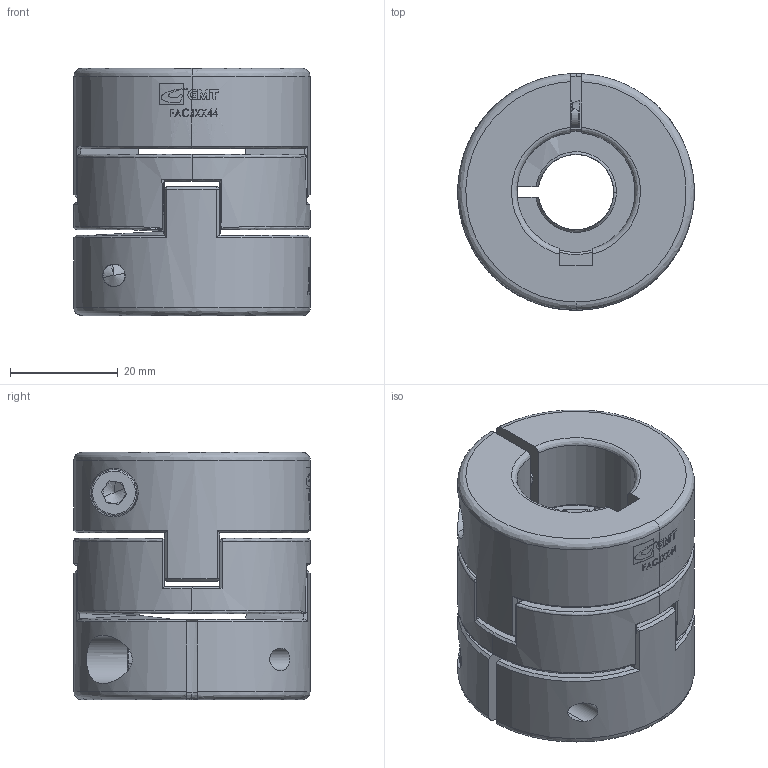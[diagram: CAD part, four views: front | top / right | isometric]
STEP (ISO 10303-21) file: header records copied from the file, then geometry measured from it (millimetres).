
FILE_DESCRIPTION (( 'STEP AP203' ), '1' );
FILE_NAME ('FACJRK44.STEP', '2008-04-04T08:49:24', ( '陳志豪' ), ( '高明鐵企業股份有限公司' ), 'SwSTEP 2.0', 'SolidWorks 2007', '' );
FILE_SCHEMA (( 'CONFIG_CONTROL_DESIGN' ));
Length unit declared in the file: millimetre
Products named in the file (1): FACJRK44
Bounding box: 44 x 44 x 46 mm (x, y, z)
Surface area: 18088.4 mm2 (no closed solid volume)
Topology: 0 solids, 7 shells, 301 faces, 966 edges, 682 vertices
Faces by surface type: plane 133, cylinder 72, bspline 58, cone 38
Entity records: 13763 total; most frequent: CARTESIAN_POINT 6512, ORIENTED_EDGE 1818, EDGE_CURVE 947, DIRECTION 937, VERTEX_POINT 670, B_SPLINE_CURVE_WITH_KNOTS 570, EDGE_LOOP 339, AXIS2_PLACEMENT_3D 333
